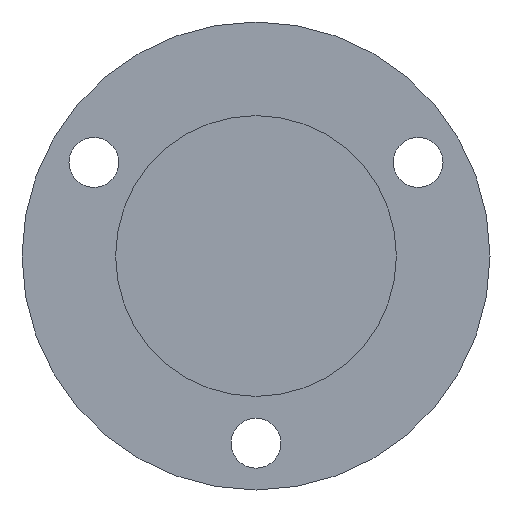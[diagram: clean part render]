
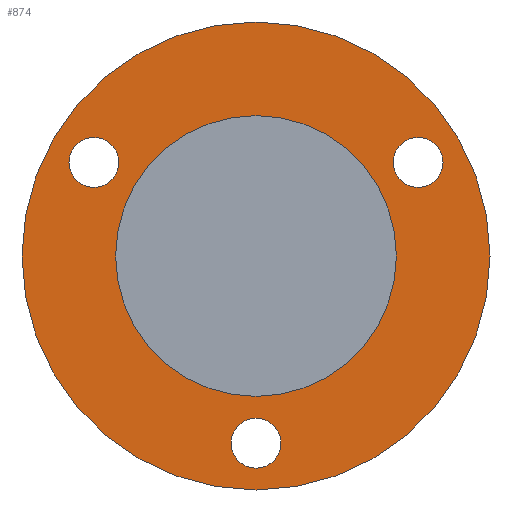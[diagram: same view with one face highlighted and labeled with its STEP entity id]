
A CAD part, front view. The second image highlights one B-rep face of the part: STEP entity #874.
In plain terms, the highlighted planar face has unit normal (0, -1, 0).
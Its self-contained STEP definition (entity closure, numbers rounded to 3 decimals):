
#16 = DIRECTION ( 'NONE',  ( 0., 0., 1. ) ) ;
#19 = EDGE_CURVE ( 'NONE', #189, #381, #60, .T. ) ;
#24 = DIRECTION ( 'NONE',  ( 0., 1., 0. ) ) ;
#30 = CARTESIAN_POINT ( 'NONE',  ( 0., 8., 0. ) ) ;
#33 = CARTESIAN_POINT ( 'NONE',  ( -10.392, 8., 6. ) ) ;
#37 = CIRCLE ( 'NONE', #521, 9. ) ;
#45 = EDGE_LOOP ( 'NONE', ( #211, #513 ) ) ;
#49 = DIRECTION ( 'NONE',  ( 0., 1., 0. ) ) ;
#51 = CIRCLE ( 'NONE', #783, 1.6 ) ;
#57 = AXIS2_PLACEMENT_3D ( 'NONE', #30, #422, #230 ) ;
#58 = EDGE_LOOP ( 'NONE', ( #373, #804 ) ) ;
#60 = CIRCLE ( 'NONE', #701, 1.6 ) ;
#66 = DIRECTION ( 'NONE',  ( 0., 0., -1. ) ) ;
#76 = ORIENTED_EDGE ( 'NONE', *, *, #232, .F. ) ;
#81 = AXIS2_PLACEMENT_3D ( 'NONE', #126, #384, #643 ) ;
#96 = ORIENTED_EDGE ( 'NONE', *, *, #447, .T. ) ;
#98 = CIRCLE ( 'NONE', #269, 1.6 ) ;
#101 = CARTESIAN_POINT ( 'NONE',  ( 0., 8., 15. ) ) ;
#106 = DIRECTION ( 'NONE',  ( 0., 1., 0. ) ) ;
#112 = CARTESIAN_POINT ( 'NONE',  ( 0., 8., 9. ) ) ;
#121 = DIRECTION ( 'NONE',  ( 0., 1., 0. ) ) ;
#126 = CARTESIAN_POINT ( 'NONE',  ( 0., 8., 0. ) ) ;
#139 = DIRECTION ( 'NONE',  ( 0., -1., 0. ) ) ;
#178 = EDGE_CURVE ( 'NONE', #595, #854, #37, .T. ) ;
#179 = DIRECTION ( 'NONE',  ( 0., 0., 1. ) ) ;
#186 = CARTESIAN_POINT ( 'NONE',  ( 10.392, 8., 7.6 ) ) ;
#189 = VERTEX_POINT ( 'NONE', #221 ) ;
#211 = ORIENTED_EDGE ( 'NONE', *, *, #726, .T. ) ;
#221 = CARTESIAN_POINT ( 'NONE',  ( 0., 8., -13.6 ) ) ;
#230 = DIRECTION ( 'NONE',  ( 0., 0., -1. ) ) ;
#232 = EDGE_CURVE ( 'NONE', #854, #595, #830, .T. ) ;
#236 = CARTESIAN_POINT ( 'NONE',  ( -10.392, 8., 6. ) ) ;
#244 = DIRECTION ( 'NONE',  ( 0., 0., 1. ) ) ;
#252 = CARTESIAN_POINT ( 'NONE',  ( 0., 8., -12. ) ) ;
#253 = AXIS2_PLACEMENT_3D ( 'NONE', #236, #121, #244 ) ;
#255 = ORIENTED_EDGE ( 'NONE', *, *, #19, .T. ) ;
#267 = CARTESIAN_POINT ( 'NONE',  ( 10.392, 8., 4.4 ) ) ;
#269 = AXIS2_PLACEMENT_3D ( 'NONE', #744, #876, #671 ) ;
#287 = EDGE_CURVE ( 'NONE', #415, #730, #789, .T. ) ;
#310 = CARTESIAN_POINT ( 'NONE',  ( 0., 8., -15. ) ) ;
#314 = VERTEX_POINT ( 'NONE', #101 ) ;
#322 = EDGE_LOOP ( 'NONE', ( #641, #76 ) ) ;
#357 = CARTESIAN_POINT ( 'NONE',  ( 10.392, 8., 6. ) ) ;
#367 = ORIENTED_EDGE ( 'NONE', *, *, #696, .T. ) ;
#373 = ORIENTED_EDGE ( 'NONE', *, *, #287, .T. ) ;
#378 = CARTESIAN_POINT ( 'NONE',  ( -9., 8., 0. ) ) ;
#381 = VERTEX_POINT ( 'NONE', #654 ) ;
#383 = DIRECTION ( 'NONE',  ( 0., 1., 0. ) ) ;
#384 = DIRECTION ( 'NONE',  ( 0., -1., 0. ) ) ;
#415 = VERTEX_POINT ( 'NONE', #526 ) ;
#422 = DIRECTION ( 'NONE',  ( 0., -1., 0. ) ) ;
#424 = VERTEX_POINT ( 'NONE', #310 ) ;
#436 = FACE_BOUND ( 'NONE', #322, .T. ) ;
#447 = EDGE_CURVE ( 'NONE', #314, #424, #724, .T. ) ;
#450 = AXIS2_PLACEMENT_3D ( 'NONE', #33, #549, #621 ) ;
#493 = CARTESIAN_POINT ( 'NONE',  ( 0., 8., -12. ) ) ;
#495 = DIRECTION ( 'NONE',  ( 0., 0., 1. ) ) ;
#502 = VERTEX_POINT ( 'NONE', #186 ) ;
#513 = ORIENTED_EDGE ( 'NONE', *, *, #656, .T. ) ;
#521 = AXIS2_PLACEMENT_3D ( 'NONE', #803, #736, #593 ) ;
#526 = CARTESIAN_POINT ( 'NONE',  ( -10.392, 8., 7.6 ) ) ;
#529 = EDGE_CURVE ( 'NONE', #381, #189, #753, .T. ) ;
#540 = VERTEX_POINT ( 'NONE', #267 ) ;
#549 = DIRECTION ( 'NONE',  ( 0., 1., 0. ) ) ;
#550 = ORIENTED_EDGE ( 'NONE', *, *, #529, .T. ) ;
#578 = CIRCLE ( 'NONE', #253, 1.6 ) ;
#593 = DIRECTION ( 'NONE',  ( 0., 0., -1. ) ) ;
#595 = VERTEX_POINT ( 'NONE', #866 ) ;
#606 = CARTESIAN_POINT ( 'NONE',  ( -10.392, 8., 4.4 ) ) ;
#621 = DIRECTION ( 'NONE',  ( 0., 0., 1. ) ) ;
#622 = CIRCLE ( 'NONE', #665, 15. ) ;
#639 = FACE_BOUND ( 'NONE', #58, .T. ) ;
#641 = ORIENTED_EDGE ( 'NONE', *, *, #178, .F. ) ;
#642 = FACE_BOUND ( 'NONE', #770, .T. ) ;
#643 = DIRECTION ( 'NONE',  ( 0., 0., -1. ) ) ;
#654 = CARTESIAN_POINT ( 'NONE',  ( 0., 8., -10.4 ) ) ;
#656 = EDGE_CURVE ( 'NONE', #540, #502, #98, .T. ) ;
#665 = AXIS2_PLACEMENT_3D ( 'NONE', #735, #139, #66 ) ;
#671 = DIRECTION ( 'NONE',  ( 0., 0., 1. ) ) ;
#696 = EDGE_CURVE ( 'NONE', #424, #314, #622, .T. ) ;
#701 = AXIS2_PLACEMENT_3D ( 'NONE', #493, #106, #495 ) ;
#713 = FACE_OUTER_BOUND ( 'NONE', #811, .T. ) ;
#724 = CIRCLE ( 'NONE', #81, 15. ) ;
#726 = EDGE_CURVE ( 'NONE', #502, #540, #51, .T. ) ;
#730 = VERTEX_POINT ( 'NONE', #606 ) ;
#735 = CARTESIAN_POINT ( 'NONE',  ( 0., 8., 0. ) ) ;
#736 = DIRECTION ( 'NONE',  ( 0., -1., 0. ) ) ;
#744 = CARTESIAN_POINT ( 'NONE',  ( 10.392, 8., 6. ) ) ;
#753 = CIRCLE ( 'NONE', #767, 1.6 ) ;
#767 = AXIS2_PLACEMENT_3D ( 'NONE', #252, #49, #860 ) ;
#770 = EDGE_LOOP ( 'NONE', ( #550, #255 ) ) ;
#771 = AXIS2_PLACEMENT_3D ( 'NONE', #378, #383, #179 ) ;
#783 = AXIS2_PLACEMENT_3D ( 'NONE', #357, #24, #16 ) ;
#786 = PLANE ( 'NONE',  #771 ) ;
#789 = CIRCLE ( 'NONE', #450, 1.6 ) ;
#803 = CARTESIAN_POINT ( 'NONE',  ( 0., 8., 0. ) ) ;
#804 = ORIENTED_EDGE ( 'NONE', *, *, #861, .T. ) ;
#811 = EDGE_LOOP ( 'NONE', ( #367, #96 ) ) ;
#830 = CIRCLE ( 'NONE', #57, 9. ) ;
#845 = FACE_BOUND ( 'NONE', #45, .T. ) ;
#854 = VERTEX_POINT ( 'NONE', #112 ) ;
#860 = DIRECTION ( 'NONE',  ( 0., 0., 1. ) ) ;
#861 = EDGE_CURVE ( 'NONE', #730, #415, #578, .T. ) ;
#866 = CARTESIAN_POINT ( 'NONE',  ( 0., 8., -9. ) ) ;
#874 = ADVANCED_FACE ( 'NONE', ( #639, #845, #642, #436, #713 ), #786, .F. ) ;
#876 = DIRECTION ( 'NONE',  ( 0., 1., 0. ) ) ;
